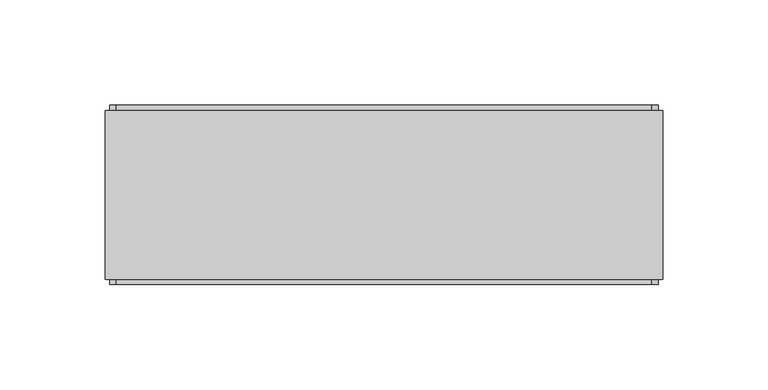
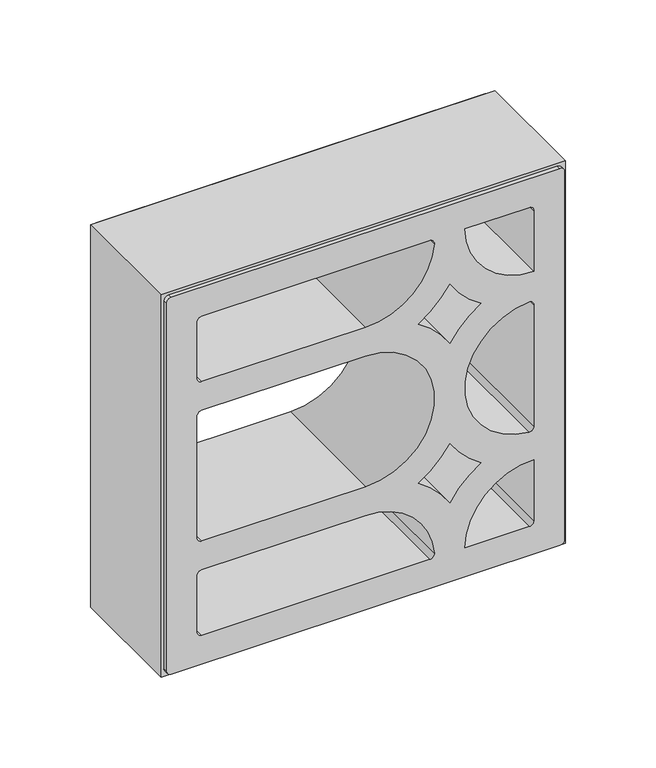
"""IFC4 building model written with IfcOpenShell, lengths in millimetres: proxy geometry, PORTOBELLO - STUDIO CRAFT 2 26X26 (COBOGO) : STUDIO CRAFT 2."""

from ifc_helpers import new_model, si_unit, point, frame, frame_2d, origin, place, context, project, spatial, polyline, circle_curve, trimmed, segment, composite_curve, outline, extrude, source, transform, mapped, element, save


def generic_models_516c6d05(model_context):
    return source(origin(), model_context, "Body", "SweptSolid", [
        extrude(outline(composite_curve([segment(polyline([(2.0, -127.0), (2.0, 127.0)]), True, "CONTINUOUS"), segment(trimmed(circle_curve(frame_2d((5.0, 127.0)), 3.0), [point((2.0, 127.0))], [point((5.0, 130.0))], False, "CARTESIAN"), True, "CONTINUOUS"), segment(polyline([(5.0, 130.0), (259.0, 130.0)]), True, "CONTINUOUS"), segment(trimmed(circle_curve(frame_2d((259.0, 127.0)), 3.0), [point((259.0, 130.0))], [point((262.0, 127.0))], False, "CARTESIAN"), True, "CONTINUOUS"), segment(polyline([(262.0, 127.0), (262.0, -127.0)]), True, "CONTINUOUS"), segment(trimmed(circle_curve(frame_2d((259.0, -127.0)), 3.0), [point((262.0, -127.0))], [point((259.0, -130.0))], False, "CARTESIAN"), True, "CONTINUOUS"), segment(polyline([(259.0, -130.0), (5.0, -130.0)]), True, "CONTINUOUS"), segment(trimmed(circle_curve(frame_2d((5.0, -127.0)), 3.0), [point((5.0, -130.0))], [point((2.0, -127.0))], False, "CARTESIAN"), True, "CONTINUOUS")], self_intersect=False), holes=[composite_curve([segment(polyline([(67.0, 110.0), (25.0, 110.0)]), True, "CONTINUOUS"), segment(trimmed(circle_curve(frame_2d((25.0, 107.0)), 3.0), [point((25.0, 110.0))], [point((22.0, 107.0))], True, "CARTESIAN"), True, "CONTINUOUS"), segment(polyline([(22.0, 107.0), (22.0, 65.0)]), True, "CONTINUOUS"), segment(trimmed(circle_curve(frame_2d((22.0, 110.0)), 45.0), [point((22.0, 65.0))], [point((67.0, 110.0))], True, "CARTESIAN"), True, "CONTINUOUS")], self_intersect=False), composite_curve([segment(polyline([(242.0, 65.0), (242.0, 107.0)]), True, "CONTINUOUS"), segment(trimmed(circle_curve(frame_2d((239.0, 107.0)), 3.0), [point((242.0, 107.0))], [point((239.0, 110.0))], True, "CARTESIAN"), True, "CONTINUOUS"), segment(polyline([(239.0, 110.0), (197.0, 110.0)]), True, "CONTINUOUS"), segment(trimmed(circle_curve(frame_2d((242.0, 110.0)), 45.0), [point((197.0, 110.0))], [point((242.0, 65.0))], True, "CARTESIAN"), True, "CONTINUOUS")], self_intersect=False), composite_curve([segment(polyline([(200.0, -110.0), (239.0, -110.0)]), True, "CONTINUOUS"), segment(trimmed(circle_curve(frame_2d((239.0, -107.0)), 3.0), [point((239.0, -110.0))], [point((242.0, -107.0))], True, "CARTESIAN"), True, "CONTINUOUS"), segment(polyline([(242.0, -107.0), (242.0, 41.8927201)]), True, "CONTINUOUS"), segment(trimmed(circle_curve(frame_2d((239.0, 41.8927201)), 3.0), [point((242.0, 41.8927201))], [point((238.7857143, 44.8850573))], True, "CARTESIAN"), True, "CONTINUOUS"), segment(trimmed(circle_curve(frame_2d((242.0, 0.0)), 45.0), [point((238.7857143, 44.8850573))], [point((197.0, 0.0))], True, "CARTESIAN"), True, "CONTINUOUS"), segment(polyline([(197.0, 0.0), (197.0, -107.0)]), True, "CONTINUOUS"), segment(trimmed(circle_curve(frame_2d((200.0, -107.0)), 3.0), [point((197.0, -107.0))], [point((200.0, -110.0))], True, "CARTESIAN"), True, "CONTINUOUS")], self_intersect=False), composite_curve([segment(polyline([(22.0, 41.8927201), (22.0, -107.0)]), True, "CONTINUOUS"), segment(trimmed(circle_curve(frame_2d((25.0, -107.0)), 3.0), [point((22.0, -107.0))], [point((25.0, -110.0))], True, "CARTESIAN"), True, "CONTINUOUS"), segment(polyline([(25.0, -110.0), (64.0, -110.0)]), True, "CONTINUOUS"), segment(trimmed(circle_curve(frame_2d((64.0, -107.0)), 3.0), [point((64.0, -110.0))], [point((67.0, -107.0))], True, "CARTESIAN"), True, "CONTINUOUS"), segment(polyline([(67.0, -107.0), (67.0, 0.0)]), True, "CONTINUOUS"), segment(trimmed(circle_curve(frame_2d((22.0, 0.0)), 45.0), [point((67.0, 0.0))], [point((25.2142857, 44.8850573))], True, "CARTESIAN"), True, "CONTINUOUS"), segment(trimmed(circle_curve(frame_2d((25.0, 41.8927201)), 3.0), [point((25.2142857, 44.8850573))], [point((22.0, 41.8927201))], True, "CARTESIAN"), True, "CONTINUOUS")], self_intersect=False), composite_curve([segment(trimmed(circle_curve(frame_2d((132.0, 110.0)), 45.0), [point((87.1149427, 106.7857143))], [point((176.8850573, 106.7857143))], True, "CARTESIAN"), True, "CONTINUOUS"), segment(trimmed(circle_curve(frame_2d((173.8927201, 107.0)), 3.0), [point((176.8850573, 106.7857143))], [point((173.8927201, 110.0))], True, "CARTESIAN"), True, "CONTINUOUS"), segment(polyline([(173.8927201, 110.0), (90.1072799, 110.0)]), True, "CONTINUOUS"), segment(trimmed(circle_curve(frame_2d((90.1072799, 107.0)), 3.0), [point((90.1072799, 110.0))], [point((87.1149427, 106.7857143))], True, "CARTESIAN"), True, "CONTINUOUS")], self_intersect=False), composite_curve([segment(polyline([(87.0, 0.0), (87.0, -107.0)]), True, "CONTINUOUS"), segment(trimmed(circle_curve(frame_2d((90.0, -107.0)), 3.0), [point((87.0, -107.0))], [point((90.0, -110.0))], True, "CARTESIAN"), True, "CONTINUOUS"), segment(polyline([(90.0, -110.0), (174.0, -110.0)]), True, "CONTINUOUS"), segment(trimmed(circle_curve(frame_2d((174.0, -107.0)), 3.0), [point((174.0, -110.0))], [point((177.0, -107.0))], True, "CARTESIAN"), True, "CONTINUOUS"), segment(polyline([(177.0, -107.0), (177.0, 0.0)]), True, "CONTINUOUS"), segment(trimmed(circle_curve(frame_2d((132.0, 0.0)), 45.0), [point((177.0, 0.0))], [point((87.0, 0.0))], True, "CARTESIAN"), True, "CONTINUOUS")], self_intersect=False), composite_curve([segment(trimmed(circle_curve(frame_2d((132.0, 110.0)), 65.0), [point((187.0, 75.3589838))], [point((166.6410162, 55.0))], False, "CARTESIAN"), True, "CONTINUOUS"), segment(trimmed(circle_curve(frame_2d((132.0, 0.0)), 65.0), [point((166.6410162, 55.0))], [point((187.0, 34.6410162))], False, "CARTESIAN"), True, "CONTINUOUS"), segment(trimmed(circle_curve(frame_2d((242.0, 0.0)), 65.0), [point((187.0, 34.6410162))], [point((207.3589838, 55.0))], False, "CARTESIAN"), True, "CONTINUOUS"), segment(trimmed(circle_curve(frame_2d((242.0, 110.0)), 65.0), [point((207.3589838, 55.0))], [point((187.0, 75.3589838))], False, "CARTESIAN"), True, "CONTINUOUS")], self_intersect=False), composite_curve([segment(trimmed(circle_curve(frame_2d((22.0, 110.0)), 65.0), [point((77.0, 75.3589838))], [point((56.6410162, 55.0))], False, "CARTESIAN"), True, "CONTINUOUS"), segment(trimmed(circle_curve(frame_2d((22.0, 0.0)), 65.0), [point((56.6410162, 55.0))], [point((77.0, 34.6410162))], False, "CARTESIAN"), True, "CONTINUOUS"), segment(trimmed(circle_curve(frame_2d((132.0, 0.0)), 65.0), [point((77.0, 34.6410162))], [point((97.3589838, 55.0))], False, "CARTESIAN"), True, "CONTINUOUS"), segment(trimmed(circle_curve(frame_2d((132.0, 110.0)), 65.0), [point((97.3589838, 55.0))], [point((77.0, 75.3589838))], False, "CARTESIAN"), True, "CONTINUOUS")], self_intersect=False)]), frame((0.0, -42.5, 0.0), z_axis=(0.0, 1.0, 0.0), x_axis=(0.0, 0.0, 1.0)), (0.0, 0.0, 1.0), 85.0),
        extrude(outline(polyline([(264.0, -132.0), (0.0, -132.0), (0.0, 132.0), (264.0, 132.0), (264.0, -132.0)]), holes=[composite_curve([segment(trimmed(circle_curve(frame_2d((5.0, -127.0)), 3.0), [point((2.0, -127.0))], [point((5.0, -130.0))], True, "CARTESIAN"), True, "CONTINUOUS"), segment(polyline([(5.0, -130.0), (259.0, -130.0)]), True, "CONTINUOUS"), segment(trimmed(circle_curve(frame_2d((259.0, -127.0)), 3.0), [point((259.0, -130.0))], [point((262.0, -127.0))], True, "CARTESIAN"), True, "CONTINUOUS"), segment(polyline([(262.0, -127.0), (262.0, 127.0)]), True, "CONTINUOUS"), segment(trimmed(circle_curve(frame_2d((259.0, 127.0)), 3.0), [point((262.0, 127.0))], [point((259.0, 130.0))], True, "CARTESIAN"), True, "CONTINUOUS"), segment(polyline([(259.0, 130.0), (5.0, 130.0)]), True, "CONTINUOUS"), segment(trimmed(circle_curve(frame_2d((5.0, 127.0)), 3.0), [point((5.0, 130.0))], [point((2.0, 127.0))], True, "CARTESIAN"), True, "CONTINUOUS"), segment(polyline([(2.0, 127.0), (2.0, -127.0)]), True, "CONTINUOUS")], self_intersect=False)]), frame((0.0, -40.0, 0.0), z_axis=(0.0, 1.0, 0.0), x_axis=(0.0, 0.0, 1.0)), (0.0, 0.0, 1.0), 80.0),
    ])


if __name__ == "__main__":
    model = new_model("IFC4")
    model_context = context("Model", 3, world=origin())
    ifc_project = project(units=[si_unit("LENGTHUNIT", "METRE", prefix="MILLI")], contexts=[model_context])
    site = spatial("IfcSite", under=ifc_project)
    building = spatial("IfcBuilding", under=site)
    placement = place(None, origin())
    generic_models_shape = generic_models_516c6d05(model_context)
    element("IfcBuildingElementProxy", 1, Name="PORTOBELLO - STUDIO CRAFT 2 26X26 (COBOGO) : STUDIO CRAFT 2", ObjectType="PORTOBELLO - STUDIO CRAFT 2 26X26 (COBOGO) : STUDIO CRAFT 2", at=placement, inside=building, context=model_context, shape_type="MappedRepresentation", body=[
        mapped(generic_models_shape, transform((0.0, 0.0, 0.0), x_axis=(1.0, 0.0, 0.0), y_axis=(0.0, 1.0, 0.0), z_axis=(0.0, 0.0, 1.0))),
    ])
    save(model, "model.ifc")
